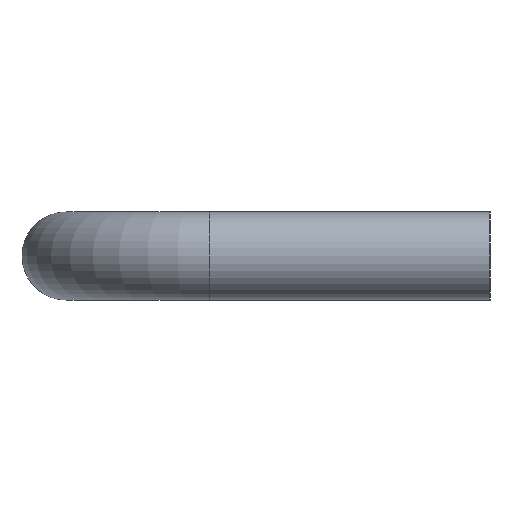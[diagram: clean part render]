
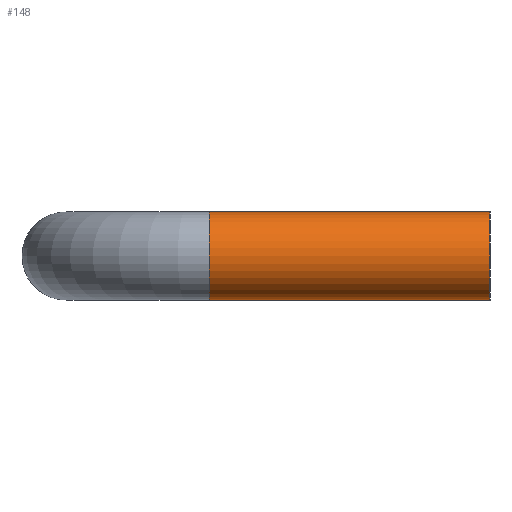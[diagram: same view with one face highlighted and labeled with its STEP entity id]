
A CAD part, left-side view. The second image highlights one B-rep face of the part: STEP entity #148.
In plain terms, the highlighted cylindrical face has radius 8 mm (diameter 16 mm), a full revolution.
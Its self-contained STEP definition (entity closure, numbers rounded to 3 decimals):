
#28=CYLINDRICAL_SURFACE('',#176,8.);
#35=ORIENTED_EDGE('',*,*,#59,.F.);
#36=ORIENTED_EDGE('',*,*,#57,.T.);
#57=EDGE_CURVE('',#69,#69,#83,.T.);
#59=EDGE_CURVE('',#71,#71,#85,.T.);
#69=VERTEX_POINT('',#253);
#71=VERTEX_POINT('',#258);
#83=CIRCLE('',#174,8.);
#85=CIRCLE('',#177,8.);
#97=EDGE_LOOP('',(#35));
#98=EDGE_LOOP('',(#36));
#121=FACE_BOUND('',#97,.T.);
#122=FACE_BOUND('',#98,.T.);
#148=ADVANCED_FACE('',(#121,#122),#28,.T.);
#174=AXIS2_PLACEMENT_3D('',#252,#202,#203);
#176=AXIS2_PLACEMENT_3D('',#256,#206,#207);
#177=AXIS2_PLACEMENT_3D('',#257,#208,#209);
#202=DIRECTION('',(0.,1.,0.));
#203=DIRECTION('',(0.,0.,1.));
#206=DIRECTION('',(0.,1.,0.));
#207=DIRECTION('',(0.,0.,1.));
#208=DIRECTION('',(0.,1.,0.));
#209=DIRECTION('',(0.,0.,1.));
#252=CARTESIAN_POINT('',(-100.,0.,0.));
#253=CARTESIAN_POINT('',(-100.,0.,8.));
#256=CARTESIAN_POINT('',(-100.,51.,0.));
#257=CARTESIAN_POINT('',(-100.,51.,0.));
#258=CARTESIAN_POINT('',(-100.,51.,8.));
